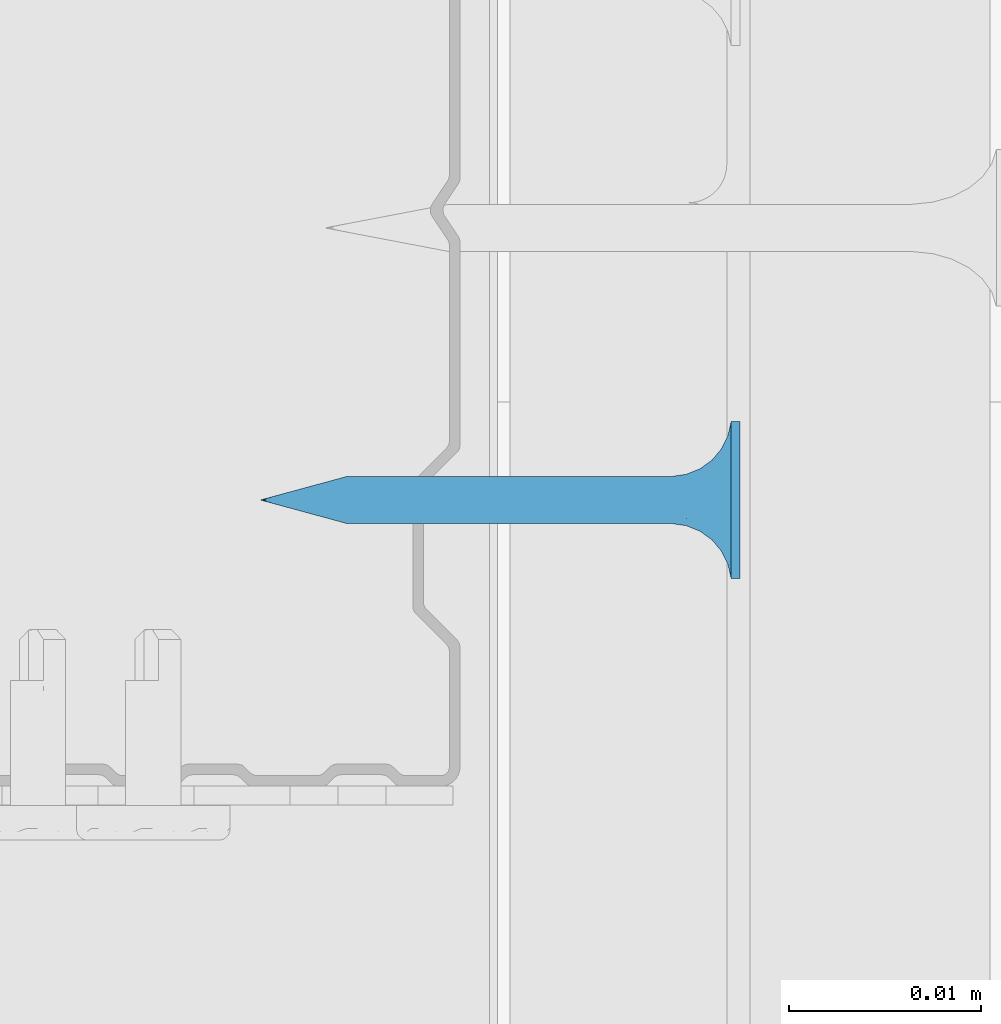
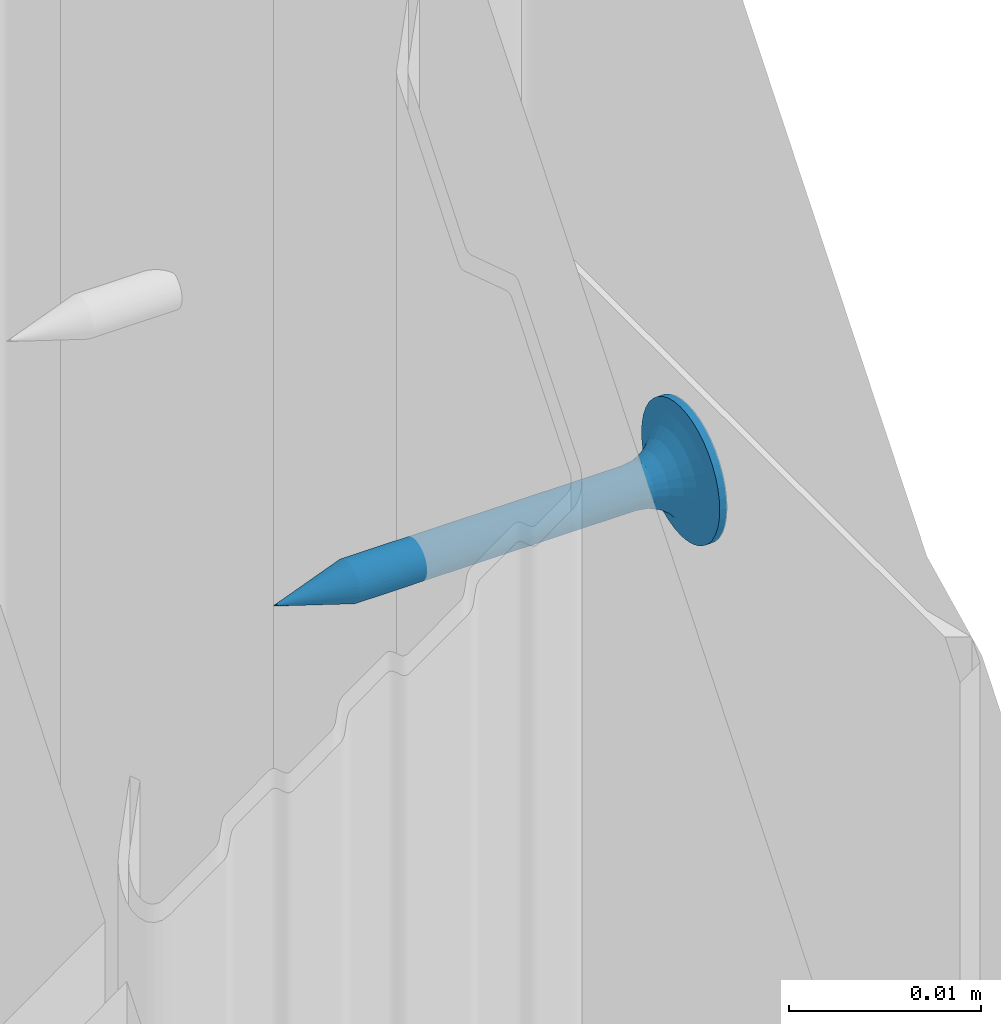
# One storey, part 57 of 67: 1 wall.
"""IFC2X3 building model written with IfcOpenShell, lengths in millimetres."""

import ifcopenshell
import ifcopenshell.guid

model = None  # the IFC model being written
_history = None  # IfcOwnerHistory: only IFC2X3 demands one
_inside = {}  # id of a spatial element -> (the spatial element, [elements in it])
_under = {}  # id of a project, library or spatial element -> (it, [spatial elements below it])
_declared = {}  # id of a project -> (the project, [libraries it declares])
_typed = {}  # id of a type object -> (the type object, [elements of that type])
_made_of = {}  # id of a material, layer set ... -> (it, [elements and type objects made of it])


def new_model(schema):
    """Start an empty IFC model of exactly this schema.

    Asked for "IFC4X3", IfcOpenShell would pick the latest addendum, in which some entities
    have other attributes; the version numbers below select the first issue.
    IFC2X3 requires an IfcOwnerHistory on every rooted entity: one is made here for all.
    """
    global model, _history
    if schema == "IFC4X3":
        model = ifcopenshell.file(schema_version=(4, 3, 0, 0))
    else:
        model = ifcopenshell.file(schema=schema)
    _inside.clear()
    _under.clear()
    _declared.clear()
    _typed.clear()
    _made_of.clear()
    _history = None
    if model.schema == "IFC2X3":
        org = make("IfcOrganization", Name="unknown")
        user = make(
            "IfcPersonAndOrganization",
            ThePerson=make("IfcPerson", FamilyName="unknown"),
            TheOrganization=org,
        )
        app = make(
            "IfcApplication",
            ApplicationDeveloper=org,
            Version="unknown",
            ApplicationFullName="unknown",
            ApplicationIdentifier="unknown",
        )
        _history = make(
            "IfcOwnerHistory",
            OwningUser=user,
            OwningApplication=app,
            ChangeAction="ADDED",
            CreationDate=0,
        )
    return model


def make(cls, **values):
    """One entity of the class cls with the attributes given. An attribute that is None is left unset."""
    return model.create_entity(
        cls, **{name: value for name, value in values.items() if value is not None}
    )


def rooted(cls, **values):
    """An entity with a GlobalId (a new one), such as an element, a storey or a relation."""
    return make(cls, GlobalId=ifcopenshell.guid.new(), OwnerHistory=_history, **values)


def si_unit(unit_type, name, prefix=None):
    """IfcSIUnit, for example si_unit("LENGTHUNIT", "METRE", prefix="MILLI")."""
    return make("IfcSIUnit", UnitType=unit_type, Prefix=prefix, Name=name)


def assignment(units):
    """IfcUnitAssignment: the units of a project."""
    return None if units is None else make("IfcUnitAssignment", Units=units)


def point(xyz):
    """IfcCartesianPoint."""
    return None if xyz is None else make("IfcCartesianPoint", Coordinates=xyz)


def direction(xyz):
    """IfcDirection."""
    return None if xyz is None else make("IfcDirection", DirectionRatios=xyz)


def frame(location, z_axis=None, x_axis=None):
    """IfcAxis2Placement3D, a coordinate frame: its origin and axes. An axis left out is left unset."""
    return make(
        "IfcAxis2Placement3D",
        Location=point(location),
        Axis=direction(z_axis),
        RefDirection=direction(x_axis),
    )


def origin_with_axes():
    """The frame at (0, 0, 0) with the z axis (0, 0, 1) and the x axis (1, 0, 0) written out."""
    return frame((0.0, 0.0, 0.0), z_axis=(0.0, 0.0, 1.0), x_axis=(1.0, 0.0, 0.0))


def place(relative_to, where):
    """IfcLocalPlacement: puts the frame where relative to a parent placement (None: the world)."""
    return make(
        "IfcLocalPlacement", PlacementRelTo=relative_to, RelativePlacement=where
    )


def context(
    kind, dimensions, precision=None, world=None, true_north=None, identifier=None
):
    """IfcGeometricRepresentationContext, for example the 3D "Model" context."""
    return make(
        "IfcGeometricRepresentationContext",
        ContextIdentifier=identifier,
        ContextType=kind,
        CoordinateSpaceDimension=dimensions,
        Precision=precision,
        WorldCoordinateSystem=world,
        TrueNorth=true_north,
    )


def subcontext(parent, identifier, kind, view, scale=None):
    """IfcGeometricRepresentationSubContext, for example "Body" below "Model"."""
    return make(
        "IfcGeometricRepresentationSubContext",
        ContextIdentifier=identifier,
        ContextType=kind,
        ParentContext=parent,
        TargetScale=scale,
        TargetView=view,
    )


def project(units=None, contexts=None):
    """IfcProject with its units and contexts."""
    return rooted(
        "IfcProject",
        Name="project",
        RepresentationContexts=contexts,
        UnitsInContext=assignment(units),
    )


def spatial(cls, under=None, at=None, **own):
    """A site, building, storey or space (cls), placed at a placement, below another one or the project."""
    s = rooted(cls, ObjectPlacement=at, **own)
    if under is not None:
        _under.setdefault(under.id(), (under, []))[1].append(s)
    return s


def faces_of(points, faces, orient=None, outer=None):
    """IfcFace entities. A face is a list of loops; a loop is a list of indices into points, from 0.

    orient and outer hold one flag for each loop. By default every Orientation is true, the
    first loop of a face is its IfcFaceOuterBound and the others are IfcFaceBound.
    """
    made = []
    for i, loops in enumerate(faces):
        bounds = []
        for j, loop in enumerate(loops):
            is_outer = j == 0 if outer is None else outer[i][j]
            bounds.append(
                make(
                    "IfcFaceOuterBound" if is_outer else "IfcFaceBound",
                    Bound=make("IfcPolyLoop", Polygon=[points[k] for k in loop]),
                    Orientation=True if orient is None else orient[i][j],
                )
            )
        made.append(make("IfcFace", Bounds=bounds))
    return made


def faceted_brep(points, faces, orient=None, outer=None, voids=None):
    """IfcFacetedBrep: a solid bounded by flat faces; with voids (closed shells), ...WithVoids."""
    shared = [point(p) for p in points]
    hull = make("IfcClosedShell", CfsFaces=faces_of(shared, faces, orient, outer))
    if voids is None:
        return make("IfcFacetedBrep", Outer=hull)
    return make(
        "IfcFacetedBrepWithVoids",
        Outer=hull,
        Voids=[
            make(cls, CfsFaces=faces_of(shared, fs, o, b)) for cls, fs, o, b in voids
        ],
    )


def shape(context_of_items, identifier, shape_type, items):
    """IfcShapeRepresentation: the items that make up one representation, for example the "Body"."""
    return make(
        "IfcShapeRepresentation",
        ContextOfItems=context_of_items,
        RepresentationIdentifier=identifier,
        RepresentationType=shape_type,
        Items=items,
    )


def material(Name=None, Category=None):
    """IfcMaterial."""
    return make("IfcMaterial", Name=Name, Category=Category)


def made_of(thing, what):
    """Note that an element or type object is made of a material, layer set ...; save() writes the relation."""
    if what is not None:
        _made_of.setdefault(what.id(), (what, []))[1].append(thing)
    return thing


def type_object(cls, material=None, **own):
    """A type object (cls), such as IfcWallType, which elements share."""
    return made_of(rooted(cls, **own), material)


def element(
    cls,
    number,
    at=None,
    inside=None,
    cuts=None,
    type_object=None,
    material=None,
    context=None,
    identifier="Body",
    shape_type=None,
    held_by="IfcProductDefinitionShape",
    body=None,
    shapes=None,
    **own,
):
    """One element of the class cls, such as IfcWall. Its Tag is "e" and its number.

    at: its placement. inside: the storey or other place that contains it. cuts: it is an
    opening in that element (IfcRelVoidsElement). A single representation is given by context,
    identifier, shape_type and body (its items); several are given by shapes. held_by: the class
    of the entity that holds the representations. save() writes the other relations.
    """
    e = rooted(cls, Tag="e%d" % number, ObjectPlacement=at, **own)
    if body is not None:
        shapes = [shape(context, identifier, shape_type, body)]
    if shapes is not None:
        e.Representation = make(held_by, Representations=shapes)
    if inside is not None:
        _inside.setdefault(inside.id(), (inside, []))[1].append(e)
    if cuts is not None:
        rooted(
            "IfcRelVoidsElement", RelatingBuildingElement=cuts, RelatedOpeningElement=e
        )
    if type_object is not None:
        _typed.setdefault(type_object.id(), (type_object, []))[1].append(e)
    return made_of(e, material)


def aggregate(whole, parts):
    """IfcRelAggregates: a whole, such as a stair, and the parts it consists of."""
    return rooted("IfcRelAggregates", RelatingObject=whole, RelatedObjects=parts)


def save(model, path):
    """Write the relations noted so far, then the file.

    IfcRelAggregates (storeys below a building ...), IfcRelContainedInSpatialStructure (elements
    in a storey), IfcRelDefinesByType, IfcRelAssociatesMaterial and IfcRelDeclares: one each for
    every whole, place, type object, material and project.
    """
    for whole, parts in _under.values():
        aggregate(whole, parts)
    for where, things in _inside.values():
        rooted(
            "IfcRelContainedInSpatialStructure",
            RelatedElements=things,
            RelatingStructure=where,
        )
    for kind, things in _typed.values():
        rooted("IfcRelDefinesByType", RelatedObjects=things, RelatingType=kind)
    for what, things in _made_of.values():
        rooted("IfcRelAssociatesMaterial", RelatedObjects=things, RelatingMaterial=what)
    for by, libraries in _declared.values():
        rooted("IfcRelDeclares", RelatingContext=by, RelatedDefinitions=libraries)
    model.write(path)


model = new_model("IFC2X3")

# Units and contexts
model_context = context("Model", 3, world=origin_with_axes())
body_context = subcontext(model_context, "Body", "Model", "MODEL_VIEW")
ifc_project = project(units=[si_unit("LENGTHUNIT", "METRE", prefix="MILLI"), si_unit("AREAUNIT", "SQUARE_METRE"), si_unit("VOLUMEUNIT", "CUBIC_METRE")], contexts=[model_context])

# Site, building, storey
site_placement = place(None, frame((2152.14102611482, 674.9749105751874, 57.61556563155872), z_axis=(0.0, 0.0, 1.0), x_axis=(-1.1102230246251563e-16, 1.0, 0.0)))
site = spatial("IfcSite", under=ifc_project, at=site_placement, Name="Default Site", CompositionType="ELEMENT")
building_placement = place(site_placement, origin_with_axes())
building = spatial("IfcBuilding", under=site, at=building_placement, Name="Default Building", CompositionType="ELEMENT")
storey_placement = place(building_placement, origin_with_axes())
storey = spatial("IfcBuildingStorey", under=building, at=storey_placement, Name="Default Building Storey", CompositionType="ELEMENT", Elevation=57.61556563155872)

# Wall
ifc_material = material(Name="Default")
wall_type = type_object("IfcWallType", Name="Wkręt RIGIPS TN 25#16", PredefinedType="NOTDEFINED")
wall_placement = place(storey_placement, frame((3560.4038704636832, 5320.213057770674, 300.1214699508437), z_axis=(0.0, 0.0, 1.0), x_axis=(1.0, 0.0, 0.0)))
element("IfcWall", 1, at=wall_placement, inside=storey, type_object=wall_type, material=ifc_material, Name="Wkręt RIGIPS TN 25", context=body_context, shape_type="Brep", body=[
    faceted_brep([(-141.48753293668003, -3390.5567221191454, 555.1619773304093), (-141.48753293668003, -3391.0209445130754, 555.1619773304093), (-141.5377465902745, -3391.0209445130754, 555.8000000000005), (-141.5377465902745, -3390.5567221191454, 555.8000000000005), (-141.33812900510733, -3390.5567221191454, 554.5396649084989), (-141.33812900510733, -3391.0209445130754, 554.5396649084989), (-141.09321328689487, -3390.5567221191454, 553.9483861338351), (-141.09321328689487, -3391.0209445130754, 553.9483861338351), (-140.75881656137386, -3390.5567221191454, 553.4027002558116), (-140.75881656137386, -3391.0209445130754, 553.4027002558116), (-140.34317265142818, -3391.0209445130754, 552.916043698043), (-140.45417279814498, -3390.5567221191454, 553.0314906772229), (-139.8565160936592, -3391.0209445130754, 552.500399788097), (-140.1080097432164, -3390.5567221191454, 552.6986613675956), (-139.72512626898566, -3390.5567221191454, 552.4088260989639), (-139.31083021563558, -3391.0209445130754, 552.1660030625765), (-139.31083021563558, -3390.5567221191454, 552.1660030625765), (-138.71955144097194, -3391.0209445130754, 551.9210873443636), (-138.87086516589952, -3390.5567221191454, 551.9735585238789), (-138.41133029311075, -3390.5567221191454, 551.8341602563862), (-138.0972390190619, -3391.0209445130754, 551.7716834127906), (-137.9385961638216, -3390.5567221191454, 551.7497405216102), (-137.45921634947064, -3391.0209445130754, 551.7214697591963), (-137.45921634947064, -3390.5567221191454, 551.7214697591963), (-136.82119367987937, -3390.5567221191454, 551.7716834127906), (-136.82119367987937, -3391.0209445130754, 551.7716834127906), (-136.19888125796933, -3390.5567221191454, 551.9210873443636), (-136.19888125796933, -3391.0209445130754, 551.9210873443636), (-135.6076024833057, -3390.5567221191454, 552.1660030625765), (-135.6076024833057, -3391.0209445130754, 552.1660030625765), (-135.06191660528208, -3390.5567221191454, 552.500399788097), (-135.06191660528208, -3391.0209445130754, 552.500399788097), (-134.57526004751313, -3390.5567221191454, 552.916043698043), (-134.57526004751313, -3391.0209445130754, 552.916043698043), (-134.1596161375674, -3390.5567221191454, 553.4027002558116), (-134.1596161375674, -3391.0209445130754, 553.4027002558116), (-133.8252194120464, -3390.5567221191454, 553.9483861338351), (-133.8252194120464, -3391.0209445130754, 553.9483861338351), (-133.58030369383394, -3390.5567221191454, 554.5396649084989), (-133.58030369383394, -3391.0209445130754, 554.5396649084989), (-133.3806861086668, -3391.0209445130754, 555.8000000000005), (-133.3806861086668, -3390.5567221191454, 555.8000000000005), (-133.43089976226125, -3390.5567221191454, 556.4380226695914), (-133.43089976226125, -3391.0209445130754, 556.4380226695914), (-133.43089976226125, -3391.0209445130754, 555.1619773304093), (-133.43089976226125, -3390.5567221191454, 555.1619773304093), (-133.58030369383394, -3390.5567221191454, 557.0603350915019), (-133.58030369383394, -3391.0209445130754, 557.0603350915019), (-133.8252194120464, -3390.5567221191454, 557.6516138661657), (-133.8252194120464, -3391.0209445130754, 557.6516138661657), (-134.1596161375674, -3390.5567221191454, 558.1972997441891), (-134.1596161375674, -3391.0209445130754, 558.1972997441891), (-134.57526004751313, -3390.5567221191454, 558.6839563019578), (-134.57526004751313, -3391.0209445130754, 558.6839563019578), (-135.06191660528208, -3390.5567221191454, 559.0996002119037), (-135.06191660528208, -3391.0209445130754, 559.0996002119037), (-135.6076024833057, -3390.5567221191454, 559.4339969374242), (-135.6076024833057, -3391.0209445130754, 559.4339969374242), (-136.19888125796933, -3390.5567221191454, 559.6789126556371), (-136.19888125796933, -3391.0209445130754, 559.6789126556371), (-136.82119367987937, -3390.5567221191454, 559.8283165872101), (-136.82119367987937, -3391.0209445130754, 559.8283165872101), (-137.45921634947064, -3390.5567221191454, 559.8785302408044), (-137.45921634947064, -3391.0209445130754, 559.8785302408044), (-138.0972390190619, -3390.5567221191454, 559.8283165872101), (-138.0972390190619, -3391.0209445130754, 559.8283165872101), (-138.71955144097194, -3390.5567221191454, 559.6789126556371), (-138.71955144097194, -3391.0209445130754, 559.6789126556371), (-139.31083021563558, -3390.5567221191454, 559.4339969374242), (-139.31083021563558, -3391.0209445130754, 559.4339969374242), (-139.8565160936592, -3390.5567221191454, 559.0996002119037), (-139.8565160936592, -3391.0209445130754, 559.0996002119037), (-140.34317265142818, -3390.5567221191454, 558.6839563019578), (-140.34317265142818, -3391.0209445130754, 558.6839563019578), (-140.75881656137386, -3390.5567221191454, 558.1972997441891), (-140.75881656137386, -3391.0209445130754, 558.1972997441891), (-141.09321328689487, -3390.5567221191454, 557.6516138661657), (-141.09321328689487, -3391.0209445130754, 557.6516138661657), (-141.33812900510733, -3390.5567221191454, 557.0603350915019), (-141.33812900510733, -3391.0209445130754, 557.0603350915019), (-141.48753293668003, -3390.5567221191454, 556.4380226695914), (-141.48753293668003, -3391.0209445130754, 556.4380226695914), (-137.65172779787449, -3387.475459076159, 554.5845305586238), (-137.45921634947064, -3387.475459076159, 554.5693795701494), (-137.8060615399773, -3388.2297325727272, 554.5055561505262), (-137.45921634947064, -3388.2297325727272, 554.4598930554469), (-137.83949898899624, -3387.475459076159, 554.6296104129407), (-138.12926982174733, -3388.2297325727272, 554.6394333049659), (-138.01790634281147, -3387.475459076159, 554.7035091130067), (-138.1825568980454, -3387.475459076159, 554.8044072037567), (-138.40681506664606, -3388.2297325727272, 554.852401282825), (-138.3293964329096, -3387.475459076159, 554.9298199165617), (-138.45480914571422, -3387.475459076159, 555.0766594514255), (-138.6197830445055, -3388.2297325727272, 555.1299465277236), (-138.5557072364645, -3387.475459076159, 555.2413100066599), (-138.753660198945, -3388.2297325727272, 555.4531548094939), (-138.62960593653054, -3387.475459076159, 555.4197173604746), (-138.67468579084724, -3387.475459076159, 555.6074885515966), (-138.79932329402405, -3388.2297325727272, 555.7999999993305), (-138.68983677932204, -3387.475459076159, 555.8000000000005), (-138.67468579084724, -3387.475459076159, 555.9925114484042), (-138.753660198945, -3388.2297325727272, 556.1468451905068), (-138.62960593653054, -3387.475459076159, 556.1802826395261), (-138.6197830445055, -3388.2297325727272, 556.4700534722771), (-138.5557072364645, -3387.475459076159, 556.3586899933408), (-138.45480914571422, -3387.475459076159, 556.5233405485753), (-138.40681506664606, -3388.2297325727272, 556.7475987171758), (-138.3293964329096, -3387.475459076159, 556.6701800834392), (-138.1825568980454, -3387.475459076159, 556.7955927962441), (-138.12926982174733, -3388.2297325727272, 556.9605666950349), (-138.01790634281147, -3387.475459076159, 556.8964908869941), (-137.8060615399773, -3388.2297325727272, 557.0944438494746), (-137.83949898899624, -3387.475459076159, 556.9703895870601), (-137.65172779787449, -3387.475459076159, 557.0154694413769), (-137.45921634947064, -3388.2297325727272, 557.140106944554), (-137.45921634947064, -3387.475459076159, 557.0306204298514), (-137.26670490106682, -3387.475459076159, 557.0154694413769), (-137.11237115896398, -3388.2297325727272, 557.0944438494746), (-137.07893370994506, -3387.475459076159, 556.9703895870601), (-136.78916287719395, -3388.2297325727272, 556.9605666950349), (-136.9005263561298, -3387.475459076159, 556.8964908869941), (-136.7358758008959, -3387.475459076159, 556.7955927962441), (-136.5116176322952, -3388.2297325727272, 556.7475987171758), (-136.58903626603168, -3387.475459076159, 556.6701800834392), (-136.46362355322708, -3387.475459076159, 556.5233405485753), (-136.2986496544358, -3388.2297325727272, 556.4700534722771), (-136.36272546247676, -3387.475459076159, 556.3586899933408), (-136.16477249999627, -3388.2297325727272, 556.1468451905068), (-136.28882676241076, -3387.475459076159, 556.1802826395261), (-136.24374690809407, -3387.475459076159, 555.9925114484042), (-136.11910940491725, -3388.2297325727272, 555.7999999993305), (-136.22859591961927, -3387.475459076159, 555.8000000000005), (-136.24374690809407, -3387.475459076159, 555.6074885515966), (-136.16477249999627, -3388.2297325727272, 555.4531548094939), (-136.28882676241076, -3387.475459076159, 555.4197173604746), (-136.2986496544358, -3388.2297325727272, 555.1299465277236), (-136.36272546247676, -3387.475459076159, 555.2413100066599), (-136.46362355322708, -3387.475459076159, 555.0766594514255), (-136.5116176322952, -3388.2297325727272, 554.852401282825), (-136.58903626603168, -3387.475459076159, 554.9298199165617), (-136.7358758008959, -3387.475459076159, 554.8044072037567), (-136.78916287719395, -3388.2297325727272, 554.6394333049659), (-136.9005263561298, -3387.475459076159, 554.7035091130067), (-137.11237115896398, -3388.2297325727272, 554.5055561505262), (-137.07893370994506, -3387.475459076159, 554.6296104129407), (-137.26670490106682, -3387.475459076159, 554.5845305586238), (-137.45921634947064, -3388.9361426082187, 554.1737111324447), (-137.88013087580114, -3388.9361426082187, 554.2291255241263), (-138.2723607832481, -3388.9361426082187, 554.391592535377), (-138.60917621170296, -3388.9361426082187, 554.6500401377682), (-138.8676238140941, -3388.9361426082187, 554.9868555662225), (-139.03009082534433, -3388.9361426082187, 555.3790854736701), (-139.08550521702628, -3388.9361426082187, 555.7999999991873), (-139.03009082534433, -3388.9361426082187, 556.2209145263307), (-138.8676238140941, -3388.9361426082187, 556.6131444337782), (-138.60917621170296, -3388.9361426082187, 556.9499598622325), (-138.2723607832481, -3388.9361426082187, 557.2084074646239), (-137.88013087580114, -3388.9361426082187, 557.3708744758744), (-137.45921634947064, -3388.9361426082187, 557.426288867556), (-137.03830182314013, -3388.9361426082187, 557.3708744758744), (-136.64607191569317, -3388.9361426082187, 557.2084074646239), (-136.30925648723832, -3388.9361426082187, 556.9499598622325), (-136.05080888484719, -3388.9361426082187, 556.6131444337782), (-135.88834187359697, -3388.9361426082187, 556.2209145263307), (-135.832927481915, -3388.9361426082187, 555.7999999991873), (-135.88834187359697, -3388.9361426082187, 555.3790854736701), (-136.05080888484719, -3388.9361426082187, 554.9868555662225), (-136.30925648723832, -3388.9361426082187, 554.6500401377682), (-136.64607191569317, -3388.9361426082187, 554.391592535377), (-137.03830182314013, -3388.9361426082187, 554.2291255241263), (-137.45921634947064, -3389.5539382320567, 553.7273430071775), (-137.99565943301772, -3389.5539382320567, 553.7979670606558), (-138.49554484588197, -3389.5539382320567, 554.0050264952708), (-138.92480608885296, -3389.5539382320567, 554.334410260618), (-139.25418985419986, -3389.5539382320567, 554.7636715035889), (-139.46124928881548, -3389.5539382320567, 555.2635569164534), (-139.53187334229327, -3389.5539382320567, 555.799999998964), (-139.46124928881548, -3389.5539382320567, 556.3364430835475), (-139.25418985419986, -3389.5539382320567, 556.8363284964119), (-138.92480608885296, -3389.5539382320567, 557.2655897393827), (-138.49554484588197, -3389.5539382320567, 557.59497350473), (-137.99565943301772, -3389.5539382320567, 557.802032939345), (-137.45921634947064, -3389.5539382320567, 557.8726569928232), (-136.92277326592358, -3389.5539382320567, 557.802032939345), (-136.42288785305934, -3389.5539382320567, 557.59497350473), (-135.9936266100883, -3389.5539382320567, 557.2655897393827), (-135.6642428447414, -3389.5539382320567, 556.8363284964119), (-135.45718341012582, -3389.5539382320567, 556.3364430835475), (-135.386559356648, -3389.5539382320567, 555.799999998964), (-135.45718341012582, -3389.5539382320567, 555.2635569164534), (-135.6642428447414, -3389.5539382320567, 554.7636715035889), (-135.9936266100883, -3389.5539382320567, 554.334410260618), (-136.42288785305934, -3389.5539382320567, 554.0050264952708), (-136.92277326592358, -3389.5539382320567, 553.7979670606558), (-137.45921634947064, -3390.047479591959, 553.1465392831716), (-138.14598252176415, -3390.047479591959, 553.2369539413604), (-138.78594670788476, -3390.047479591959, 553.5020355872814), (-139.33549641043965, -3390.047479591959, 553.923719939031), (-139.75718076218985, -3390.047479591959, 554.4732696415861), (-140.02226240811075, -3390.047479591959, 555.1132338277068), (-140.11267706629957, -3390.047479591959, 555.7999999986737), (-140.02226240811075, -3390.047479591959, 556.4867661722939), (-139.75718076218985, -3390.047479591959, 557.1267303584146), (-139.33549641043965, -3390.047479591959, 557.6762800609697), (-138.78594670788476, -3390.047479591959, 558.0979644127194), (-138.14598252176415, -3390.047479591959, 558.3630460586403), (-137.45921634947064, -3390.047479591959, 558.4534607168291), (-136.77245017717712, -3390.047479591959, 558.3630460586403), (-136.13248599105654, -3390.047479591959, 558.0979644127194), (-135.58293628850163, -3390.047479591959, 557.6762800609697), (-135.16125193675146, -3390.047479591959, 557.1267303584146), (-134.89617029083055, -3390.047479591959, 556.4867661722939), (-134.8057556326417, -3390.047479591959, 555.7999999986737), (-134.89617029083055, -3390.047479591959, 555.1132338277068), (-135.16125193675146, -3390.047479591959, 554.4732696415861), (-135.58293628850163, -3390.047479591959, 553.923719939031), (-136.13248599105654, -3390.047479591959, 553.5020355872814), (-136.77245017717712, -3390.047479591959, 553.2369539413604), (-137.45921634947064, -3390.3882942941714, 552.4648055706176), (-138.3224281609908, -3390.3882942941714, 552.5784495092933), (-139.12681356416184, -3390.3882942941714, 552.9116369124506), (-139.8175549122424, -3390.3882942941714, 553.4416614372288), (-140.34757943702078, -3390.3882942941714, 554.132402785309), (-140.680766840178, -3390.3882942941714, 554.9367881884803), (-140.79441077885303, -3390.3882942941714, 555.7999999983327), (-140.680766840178, -3390.3882942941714, 556.6632118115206), (-140.34757943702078, -3390.3882942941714, 557.4675972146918), (-139.8175549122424, -3390.3882942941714, 558.158338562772), (-139.12681356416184, -3390.3882942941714, 558.6883630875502), (-138.3224281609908, -3390.3882942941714, 559.0215504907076), (-137.45921634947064, -3390.3882942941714, 559.1351944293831), (-136.5960045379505, -3390.3882942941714, 559.0215504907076), (-135.79161913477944, -3390.3882942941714, 558.6883630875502), (-135.10087778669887, -3390.3882942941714, 558.158338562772), (-134.5708532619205, -3390.3882942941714, 557.4675972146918), (-134.23766585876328, -3390.3882942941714, 556.6632118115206), (-134.12402192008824, -3390.3882942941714, 555.7999999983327), (-134.23766585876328, -3390.3882942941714, 554.9367881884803), (-134.5708532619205, -3390.3882942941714, 554.132402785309), (-135.10087778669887, -3390.3882942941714, 553.4416614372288), (-135.79161913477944, -3390.3882942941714, 552.9116369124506), (-136.5960045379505, -3390.3882942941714, 552.5784495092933), (-138.67468579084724, -3370.558073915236, 555.6074885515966), (-138.68983677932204, -3370.558073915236, 555.8000000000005), (-138.62960593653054, -3370.558073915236, 555.4197173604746), (-138.5557072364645, -3370.558073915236, 555.2413100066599), (-138.45480914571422, -3370.558073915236, 555.0766594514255), (-138.3293964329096, -3370.558073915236, 554.9298199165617), (-138.1825568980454, -3370.558073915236, 554.8044072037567), (-138.01790634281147, -3370.558073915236, 554.7035091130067), (-137.83949898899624, -3370.558073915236, 554.6296104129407), (-137.65172779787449, -3370.558073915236, 554.5845305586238), (-137.45921634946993, -3370.558073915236, 554.5693795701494), (-137.26670490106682, -3370.558073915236, 554.5845305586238), (-137.07893370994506, -3370.558073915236, 554.6296104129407), (-136.9005263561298, -3370.558073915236, 554.7035091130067), (-136.7358758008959, -3370.558073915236, 554.8044072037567), (-136.58903626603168, -3370.558073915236, 554.9298199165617), (-136.46362355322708, -3370.558073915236, 555.0766594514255), (-136.36272546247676, -3370.558073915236, 555.2413100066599), (-136.28882676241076, -3370.558073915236, 555.4197173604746), (-136.22859591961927, -3370.558073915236, 555.8000000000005), (-136.24374690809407, -3370.558073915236, 555.9925114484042), (-136.24374690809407, -3370.558073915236, 555.6074885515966), (-136.28882676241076, -3370.558073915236, 556.1802826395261), (-136.36272546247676, -3370.558073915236, 556.3586899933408), (-136.46362355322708, -3370.558073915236, 556.5233405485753), (-136.58903626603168, -3370.558073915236, 556.6701800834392), (-136.7358758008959, -3370.558073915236, 556.7955927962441), (-136.9005263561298, -3370.558073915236, 556.8964908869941), (-137.07893370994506, -3370.558073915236, 556.9703895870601), (-137.26670490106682, -3370.558073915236, 557.0154694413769), (-137.45921634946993, -3370.558073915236, 557.0306204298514), (-137.65172779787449, -3370.558073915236, 557.0154694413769), (-137.83949898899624, -3370.558073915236, 556.9703895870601), (-138.01790634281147, -3370.558073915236, 556.8964908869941), (-138.1825568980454, -3370.558073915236, 556.7955927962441), (-138.3293964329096, -3370.558073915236, 556.6701800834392), (-138.45480914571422, -3370.558073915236, 556.5233405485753), (-138.5557072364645, -3370.558073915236, 556.3586899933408), (-138.62960593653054, -3370.558073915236, 556.1802826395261), (-138.67468579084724, -3370.558073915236, 555.9925114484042), (-137.45921634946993, -3366.0210335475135, 555.8000000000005), (-139.95921629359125, -3391.0209445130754, 555.2999999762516), (-139.95921629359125, -3391.0209445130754, 556.3000000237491), (-137.95921637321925, -3391.0209445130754, 556.3000000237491), (-137.95921637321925, -3391.0209445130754, 558.2999999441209), (-136.95921632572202, -3391.0209445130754, 558.2999999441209), (-136.95921632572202, -3391.0209445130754, 556.3000000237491), (-134.95921640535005, -3391.0209445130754, 556.3000000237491), (-134.95921640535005, -3391.0209445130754, 555.2999999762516), (-136.95921632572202, -3391.0209445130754, 555.2999999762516), (-136.95921632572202, -3391.0209445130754, 553.3000000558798), (-137.95921637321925, -3391.0209445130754, 553.3000000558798), (-137.95921637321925, -3391.0209445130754, 555.2999999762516), (-136.95921632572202, -3390.72897497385, 558.2999999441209), (-137.95921637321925, -3390.72897497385, 558.2999999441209), (-137.95921637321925, -3390.72897497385, 556.3000000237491), (-139.95921629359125, -3390.72897497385, 556.3000000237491), (-139.95921629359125, -3390.72897497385, 555.2999999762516), (-137.95921637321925, -3390.72897497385, 555.2999999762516), (-137.95921637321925, -3390.72897497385, 553.3000000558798), (-136.95921632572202, -3390.72897497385, 553.3000000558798), (-136.95921632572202, -3390.72897497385, 555.2999999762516), (-134.95921640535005, -3390.72897497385, 555.2999999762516), (-134.95921640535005, -3390.72897497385, 556.3000000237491), (-136.95921632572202, -3390.72897497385, 556.3000000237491)], [[[0, 1, 2, 3]], [[1, 0, 4, 5]], [[5, 4, 6, 7]], [[8, 9, 7, 6]], [[8, 10, 9]], [[8, 11, 10]], [[12, 11, 13]], [[12, 10, 11]], [[13, 14, 12]], [[14, 15, 12]], [[14, 16, 15]], [[17, 16, 18]], [[17, 15, 16]], [[18, 19, 17]], [[20, 19, 21]], [[20, 17, 19]], [[21, 22, 20]], [[21, 23, 22]], [[24, 25, 22, 23]], [[25, 24, 26, 27]], [[27, 26, 28, 29]], [[30, 31, 29, 28]], [[31, 30, 32, 33]], [[34, 35, 33, 32]], [[35, 34, 36, 37]], [[37, 36, 38, 39]], [[40, 41, 42, 43]], [[44, 45, 41, 40]], [[45, 44, 39, 38]], [[43, 42, 46, 47]], [[47, 46, 48, 49]], [[50, 51, 49, 48]], [[51, 50, 52, 53]], [[54, 55, 53, 52]], [[55, 54, 56, 57]], [[57, 56, 58, 59]], [[60, 61, 59, 58]], [[61, 60, 62, 63]], [[64, 65, 63, 62]], [[65, 64, 66, 67]], [[67, 66, 68, 69]], [[70, 71, 69, 68]], [[71, 70, 72, 73]], [[74, 75, 73, 72]], [[75, 74, 76, 77]], [[77, 76, 78, 79]], [[80, 81, 79, 78]], [[81, 80, 3, 2]], [[82, 83, 84]], [[83, 85, 84]], [[84, 86, 82]], [[84, 87, 88, 86]], [[89, 88, 87]], [[87, 90, 89]], [[90, 91, 89]], [[92, 91, 93]], [[91, 90, 93]], [[93, 94, 92]], [[93, 95, 96, 94]], [[97, 96, 95]], [[95, 98, 97]], [[98, 99, 97]], [[100, 99, 101]], [[99, 98, 101]], [[101, 102, 100]], [[101, 103, 104, 102]], [[105, 104, 103]], [[103, 106, 105]], [[106, 107, 105]], [[108, 107, 109]], [[107, 106, 109]], [[109, 110, 108]], [[109, 111, 112, 110]], [[113, 112, 111]], [[111, 114, 113]], [[114, 115, 113]], [[116, 115, 117]], [[115, 114, 117]], [[117, 118, 116]], [[117, 119, 120, 118]], [[121, 120, 119]], [[119, 122, 121]], [[122, 123, 121]], [[124, 123, 125]], [[123, 122, 125]], [[125, 126, 124]], [[125, 127, 128, 126]], [[129, 128, 127]], [[127, 130, 129]], [[130, 131, 129]], [[132, 131, 133]], [[131, 130, 133]], [[133, 134, 132]], [[133, 135, 136, 134]], [[137, 136, 135]], [[135, 138, 137]], [[138, 139, 137]], [[140, 139, 141]], [[139, 138, 141]], [[141, 142, 140]], [[141, 143, 144, 142]], [[145, 144, 143]], [[143, 85, 145]], [[85, 83, 145]], [[146, 147, 84, 85]], [[84, 147, 148, 87]], [[87, 148, 149, 90]], [[90, 149, 150, 93]], [[93, 150, 151, 95]], [[95, 151, 152, 98]], [[98, 152, 153, 101]], [[101, 153, 154, 103]], [[103, 154, 155, 106]], [[106, 155, 156, 109]], [[109, 156, 157, 111]], [[111, 157, 158, 114]], [[114, 158, 159, 117]], [[117, 159, 160, 119]], [[119, 160, 161, 122]], [[122, 161, 162, 125]], [[125, 162, 163, 127]], [[127, 163, 164, 130]], [[130, 164, 165, 133]], [[133, 165, 166, 135]], [[135, 166, 167, 138]], [[138, 167, 168, 141]], [[141, 168, 169, 143]], [[143, 169, 146, 85]], [[170, 171, 147, 146]], [[147, 171, 172, 148]], [[148, 172, 173, 149]], [[149, 173, 174, 150]], [[150, 174, 175, 151]], [[151, 175, 176, 152]], [[152, 176, 177, 153]], [[153, 177, 178, 154]], [[154, 178, 179, 155]], [[155, 179, 180, 156]], [[156, 180, 181, 157]], [[157, 181, 182, 158]], [[158, 182, 183, 159]], [[159, 183, 184, 160]], [[160, 184, 185, 161]], [[161, 185, 186, 162]], [[162, 186, 187, 163]], [[163, 187, 188, 164]], [[164, 188, 189, 165]], [[165, 189, 190, 166]], [[166, 190, 191, 167]], [[167, 191, 192, 168]], [[168, 192, 193, 169]], [[169, 193, 170, 146]], [[194, 195, 171, 170]], [[171, 195, 196, 172]], [[172, 196, 197, 173]], [[173, 197, 198, 174]], [[174, 198, 199, 175]], [[175, 199, 200, 176]], [[176, 200, 201, 177]], [[177, 201, 202, 178]], [[178, 202, 203, 179]], [[179, 203, 204, 180]], [[180, 204, 205, 181]], [[181, 205, 206, 182]], [[182, 206, 207, 183]], [[183, 207, 208, 184]], [[184, 208, 209, 185]], [[185, 209, 210, 186]], [[186, 210, 211, 187]], [[187, 211, 212, 188]], [[188, 212, 213, 189]], [[189, 213, 214, 190]], [[190, 214, 215, 191]], [[191, 215, 216, 192]], [[192, 216, 217, 193]], [[193, 217, 194, 170]], [[21, 19, 218]], [[19, 219, 218]], [[218, 23, 21]], [[218, 219, 195, 194]], [[18, 16, 219]], [[16, 220, 219]], [[219, 19, 18]], [[195, 219, 220, 196]], [[13, 11, 221]], [[14, 13, 220]], [[13, 221, 220]], [[220, 16, 14]], [[196, 220, 221, 197]], [[8, 6, 222]], [[222, 221, 8]], [[221, 11, 8]], [[197, 221, 222, 198]], [[4, 223, 222, 6]], [[198, 222, 223, 199]], [[0, 3, 223]], [[3, 224, 223]], [[223, 4, 0]], [[199, 223, 224, 200]], [[80, 78, 225]], [[225, 224, 80]], [[224, 3, 80]], [[200, 224, 225, 201]], [[78, 76, 226, 225]], [[201, 225, 226, 202]], [[74, 72, 226]], [[72, 227, 226]], [[226, 76, 74]], [[202, 226, 227, 203]], [[70, 68, 228]], [[228, 227, 70]], [[227, 72, 70]], [[203, 227, 228, 204]], [[68, 66, 229, 228]], [[204, 228, 229, 205]], [[64, 62, 229]], [[62, 230, 229]], [[229, 66, 64]], [[205, 229, 230, 206]], [[60, 58, 231]], [[231, 230, 60]], [[230, 62, 60]], [[206, 230, 231, 207]], [[58, 56, 232, 231]], [[207, 231, 232, 208]], [[54, 52, 232]], [[52, 233, 232]], [[232, 56, 54]], [[208, 232, 233, 209]], [[50, 48, 234]], [[234, 233, 50]], [[233, 52, 50]], [[209, 233, 234, 210]], [[48, 46, 235, 234]], [[210, 234, 235, 211]], [[42, 41, 235]], [[41, 236, 235]], [[235, 46, 42]], [[211, 235, 236, 212]], [[45, 38, 237]], [[237, 236, 45]], [[236, 41, 45]], [[212, 236, 237, 213]], [[36, 238, 237, 38]], [[213, 237, 238, 214]], [[34, 32, 238]], [[32, 239, 238]], [[238, 36, 34]], [[214, 238, 239, 215]], [[30, 28, 240]], [[240, 239, 30]], [[239, 32, 30]], [[215, 239, 240, 216]], [[26, 241, 240, 28]], [[216, 240, 241, 217]], [[217, 241, 218, 194]], [[24, 23, 241]], [[23, 218, 241]], [[241, 26, 24]], [[242, 97, 99, 243]], [[97, 242, 244, 96]], [[96, 244, 245, 94]], [[246, 92, 94, 245]], [[92, 246, 247, 91]], [[248, 89, 91, 247]], [[89, 248, 249, 88]], [[88, 249, 250, 86]], [[251, 82, 86, 250]], [[82, 251, 252, 83]], [[253, 145, 83, 252]], [[145, 253, 254, 144]], [[144, 254, 255, 142]], [[256, 140, 142, 255]], [[140, 256, 257, 139]], [[258, 137, 139, 257]], [[137, 258, 259, 136]], [[136, 259, 260, 134]], [[131, 261, 262, 129]], [[132, 263, 261, 131]], [[263, 132, 134, 260]], [[129, 262, 264, 128]], [[128, 264, 265, 126]], [[266, 124, 126, 265]], [[124, 266, 267, 123]], [[268, 121, 123, 267]], [[121, 268, 269, 120]], [[120, 269, 270, 118]], [[271, 116, 118, 270]], [[116, 271, 272, 115]], [[273, 113, 115, 272]], [[113, 273, 274, 112]], [[112, 274, 275, 110]], [[276, 108, 110, 275]], [[108, 276, 277, 107]], [[278, 105, 107, 277]], [[105, 278, 279, 104]], [[104, 279, 280, 102]], [[281, 100, 102, 280]], [[100, 281, 243, 99]], [[282, 244, 242]], [[242, 243, 282]], [[282, 245, 244]], [[282, 247, 246]], [[246, 245, 282]], [[282, 249, 248]], [[248, 247, 282]], [[282, 250, 249]], [[282, 252, 251]], [[251, 250, 282]], [[282, 254, 253]], [[253, 252, 282]], [[282, 255, 254]], [[282, 257, 256]], [[256, 255, 282]], [[282, 259, 258]], [[258, 257, 282]], [[282, 260, 259]], [[282, 261, 263]], [[263, 260, 282]], [[282, 264, 262]], [[262, 261, 282]], [[282, 265, 264]], [[282, 267, 266]], [[266, 265, 282]], [[282, 269, 268]], [[268, 267, 282]], [[282, 270, 269]], [[282, 272, 271]], [[271, 270, 282]], [[282, 274, 273]], [[273, 272, 282]], [[282, 275, 274]], [[282, 277, 276]], [[276, 275, 282]], [[282, 279, 278]], [[278, 277, 282]], [[282, 280, 279]], [[282, 243, 281]], [[281, 280, 282]], [[75, 77, 79, 81, 2, 1, 5, 7, 9, 10, 12, 15, 17, 20, 22, 25, 27, 29, 31, 33, 35, 37, 39, 44, 40, 43, 47, 49, 51, 53, 55, 57, 59, 61, 63, 65, 67, 69, 71, 73], [283, 284, 285, 286, 287, 288, 289, 290, 291, 292, 293, 294]], [[295, 296, 297, 298, 299, 300, 301, 302, 303, 304, 305, 306]], [[303, 291, 290, 304]], [[304, 290, 289, 305]], [[305, 289, 288, 306]], [[306, 288, 287, 295]], [[295, 287, 286, 296]], [[296, 286, 285, 297]], [[297, 285, 284, 298]], [[298, 284, 283, 299]], [[299, 283, 294, 300]], [[300, 294, 293, 301]], [[301, 293, 292, 302]], [[302, 292, 291, 303]]]),
])

save(model, "model.ifc")
